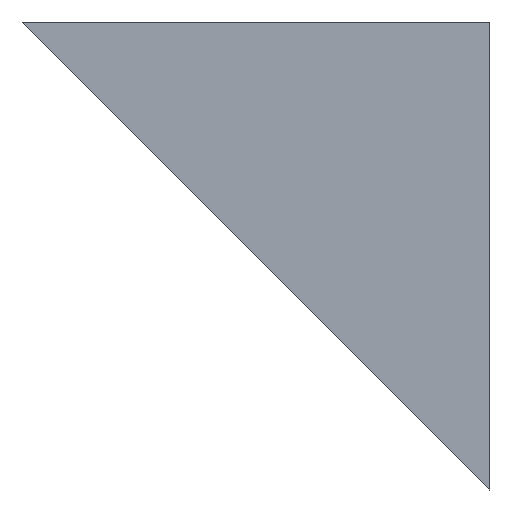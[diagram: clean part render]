
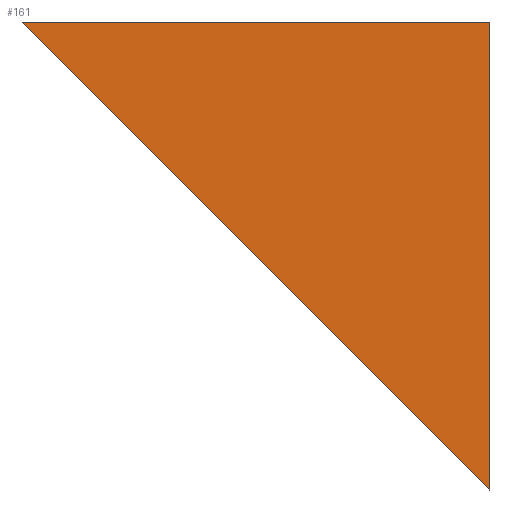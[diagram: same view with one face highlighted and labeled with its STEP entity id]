
A CAD part, left-side view. The second image highlights one B-rep face of the part: STEP entity #161.
In plain terms, the highlighted planar face has unit normal (-1, 0, 0).
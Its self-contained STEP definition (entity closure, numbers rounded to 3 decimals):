
#4 = DIRECTION ( 'NONE',  ( 0., 0.707, 0.707 ) ) ;
#15 = EDGE_CURVE ( 'NONE', #124, #146, #95, .T. ) ;
#29 = VECTOR ( 'NONE', #4, 1000. ) ;
#33 = VERTEX_POINT ( 'NONE', #113 ) ;
#47 = ORIENTED_EDGE ( 'NONE', *, *, #185, .F. ) ;
#50 = CARTESIAN_POINT ( 'NONE',  ( 0., 0., 0. ) ) ;
#60 = LINE ( 'NONE', #116, #131 ) ;
#67 = CARTESIAN_POINT ( 'NONE',  ( 0., 0., -382. ) ) ;
#70 = LINE ( 'NONE', #67, #188 ) ;
#79 = ORIENTED_EDGE ( 'NONE', *, *, #129, .F. ) ;
#95 = LINE ( 'NONE', #162, #29 ) ;
#98 = CARTESIAN_POINT ( 'NONE',  ( 0., 382., 0. ) ) ;
#113 = CARTESIAN_POINT ( 'NONE',  ( 0., 0., 0. ) ) ;
#114 = AXIS2_PLACEMENT_3D ( 'NONE', #50, #177, #143 ) ;
#116 = CARTESIAN_POINT ( 'NONE',  ( 0., 0., 0. ) ) ;
#124 = VERTEX_POINT ( 'NONE', #141 ) ;
#129 = EDGE_CURVE ( 'NONE', #146, #33, #60, .T. ) ;
#131 = VECTOR ( 'NONE', #144, 1000. ) ;
#140 = ORIENTED_EDGE ( 'NONE', *, *, #15, .F. ) ;
#141 = CARTESIAN_POINT ( 'NONE',  ( 0., 0., -382. ) ) ;
#143 = DIRECTION ( 'NONE',  ( 0., 0., 1. ) ) ;
#144 = DIRECTION ( 'NONE',  ( 0., -1., 0. ) ) ;
#146 = VERTEX_POINT ( 'NONE', #98 ) ;
#147 = FACE_OUTER_BOUND ( 'NONE', #191, .T. ) ;
#161 = ADVANCED_FACE ( 'NONE', ( #147 ), #189, .T. ) ;
#162 = CARTESIAN_POINT ( 'NONE',  ( 0., 382., 0. ) ) ;
#169 = DIRECTION ( 'NONE',  ( 0., 0., -1. ) ) ;
#177 = DIRECTION ( 'NONE',  ( -1., 0., 0. ) ) ;
#185 = EDGE_CURVE ( 'NONE', #33, #124, #70, .T. ) ;
#188 = VECTOR ( 'NONE', #169, 1000. ) ;
#189 = PLANE ( 'NONE',  #114 ) ;
#191 = EDGE_LOOP ( 'NONE', ( #47, #79, #140 ) ) ;
